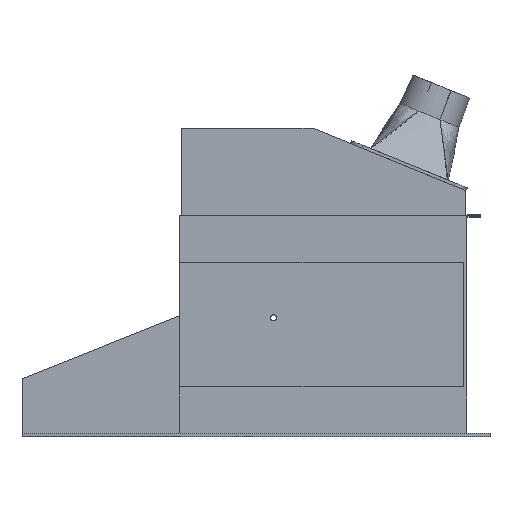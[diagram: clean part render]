
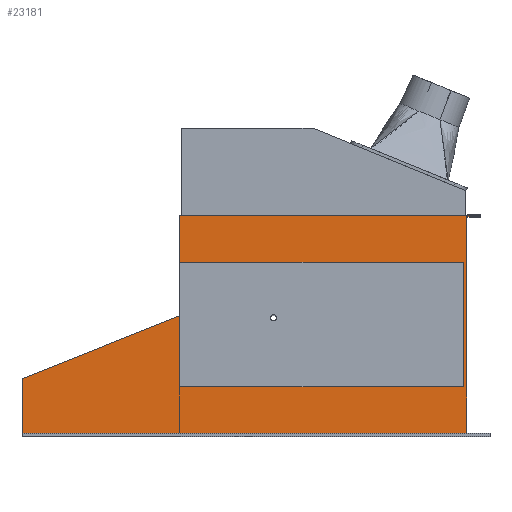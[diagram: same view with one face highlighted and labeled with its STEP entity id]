
A CAD part, top view. The second image highlights one B-rep face of the part: STEP entity #23181.
In plain terms, the highlighted planar face has unit normal (0, 0, 1).
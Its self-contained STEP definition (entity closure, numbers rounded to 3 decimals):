
#382 = CARTESIAN_POINT ( 'NONE',  ( -122.515, 102.105, 343. ) ) ;
#1627 = CARTESIAN_POINT ( 'NONE',  ( 331.485, 102.105, 343. ) ) ;
#2335 = CARTESIAN_POINT ( 'NONE',  ( 337.485, -171.895, 343. ) ) ;
#3736 = VERTEX_POINT ( 'NONE', #44437 ) ;
#4305 = DIRECTION ( 'NONE',  ( 1., 0., 0. ) ) ;
#4427 = ORIENTED_EDGE ( 'NONE', *, *, #18803, .F. ) ;
#4537 = CARTESIAN_POINT ( 'NONE',  ( -22.521, 56.303, 343. ) ) ;
#6106 = DIRECTION ( 'NONE',  ( 0., -1., 0. ) ) ;
#6372 = VERTEX_POINT ( 'NONE', #40766 ) ;
#6376 = CARTESIAN_POINT ( 'NONE',  ( 0., 0., 343. ) ) ;
#7441 = CARTESIAN_POINT ( 'NONE',  ( 337.485, 0., 343. ) ) ;
#8786 = VECTOR ( 'NONE', #26448, 1000. ) ;
#9170 = CARTESIAN_POINT ( 'NONE',  ( -122.515, -97.895, 343. ) ) ;
#10859 = ORIENTED_EDGE ( 'NONE', *, *, #14155, .T. ) ;
#11148 = VECTOR ( 'NONE', #22887, 1000. ) ;
#11500 = PLANE ( 'NONE',  #63169 ) ;
#11690 = VERTEX_POINT ( 'NONE', #34488 ) ;
#12017 = LINE ( 'NONE', #46051, #8786 ) ;
#12157 = LINE ( 'NONE', #26514, #40139 ) ;
#13199 = VERTEX_POINT ( 'NONE', #2335 ) ;
#14155 = EDGE_CURVE ( 'NONE', #19278, #39377, #18160, .T. ) ;
#15548 = CARTESIAN_POINT ( 'NONE',  ( 0., 174.896, 343. ) ) ;
#16624 = DIRECTION ( 'NONE',  ( 1., 0., 0. ) ) ;
#17010 = ORIENTED_EDGE ( 'NONE', *, *, #34912, .T. ) ;
#17461 = VECTOR ( 'NONE', #29562, 1000. ) ;
#17794 = LINE ( 'NONE', #29386, #32510 ) ;
#18074 = LINE ( 'NONE', #60280, #42784 ) ;
#18160 = LINE ( 'NONE', #4537, #44433 ) ;
#18438 = VERTEX_POINT ( 'NONE', #382 ) ;
#18803 = EDGE_CURVE ( 'NONE', #60096, #11690, #17794, .T. ) ;
#19278 = VERTEX_POINT ( 'NONE', #47820 ) ;
#20153 = CARTESIAN_POINT ( 'NONE',  ( 359.485, 176.605, 343. ) ) ;
#20234 = ORIENTED_EDGE ( 'NONE', *, *, #31617, .F. ) ;
#20633 = VECTOR ( 'NONE', #26775, 1000. ) ;
#21523 = DIRECTION ( 'NONE',  ( 1., 0., 0. ) ) ;
#22887 = DIRECTION ( 'NONE',  ( 0., -1., 0. ) ) ;
#23181 = ADVANCED_FACE ( 'NONE', ( #46920 ), #11500, .T. ) ;
#24655 = DIRECTION ( 'NONE',  ( -0.928, -0.371, 0. ) ) ;
#26448 = DIRECTION ( 'NONE',  ( 0., -1., 0. ) ) ;
#26514 = CARTESIAN_POINT ( 'NONE',  ( 0., 176.605, 343. ) ) ;
#26748 = DIRECTION ( 'NONE',  ( 0., -1., 0. ) ) ;
#26767 = CARTESIAN_POINT ( 'NONE',  ( -375.515, -84.895, 343. ) ) ;
#26775 = DIRECTION ( 'NONE',  ( -1., 0., 0. ) ) ;
#27106 = EDGE_CURVE ( 'NONE', #39377, #41803, #12017, .T. ) ;
#28311 = EDGE_CURVE ( 'NONE', #3736, #18438, #48360, .T. ) ;
#28757 = LINE ( 'NONE', #15548, #54911 ) ;
#28933 = LINE ( 'NONE', #34280, #30497 ) ;
#29185 = ORIENTED_EDGE ( 'NONE', *, *, #52595, .F. ) ;
#29386 = CARTESIAN_POINT ( 'NONE',  ( 331.485, -97.895, 343. ) ) ;
#29562 = DIRECTION ( 'NONE',  ( 0., -1., 0. ) ) ;
#30394 = EDGE_CURVE ( 'NONE', #41803, #13199, #33622, .T. ) ;
#30497 = VECTOR ( 'NONE', #62982, 1000. ) ;
#30633 = LINE ( 'NONE', #9170, #17461 ) ;
#30887 = DIRECTION ( 'NONE',  ( 1., 0., 0. ) ) ;
#30931 = DIRECTION ( 'NONE',  ( 0., 0., 1. ) ) ;
#31042 = VERTEX_POINT ( 'NONE', #20153 ) ;
#31456 = ORIENTED_EDGE ( 'NONE', *, *, #28311, .F. ) ;
#31617 = EDGE_CURVE ( 'NONE', #11690, #3736, #28933, .T. ) ;
#31962 = ORIENTED_EDGE ( 'NONE', *, *, #30394, .T. ) ;
#32093 = EDGE_CURVE ( 'NONE', #60223, #18438, #18074, .T. ) ;
#32510 = VECTOR ( 'NONE', #4305, 1000. ) ;
#33622 = LINE ( 'NONE', #40805, #58174 ) ;
#34280 = CARTESIAN_POINT ( 'NONE',  ( 331.485, -97.895, 343. ) ) ;
#34488 = CARTESIAN_POINT ( 'NONE',  ( 331.485, -97.895, 343. ) ) ;
#34912 = EDGE_CURVE ( 'NONE', #6372, #51705, #28757, .T. ) ;
#37152 = CARTESIAN_POINT ( 'NONE',  ( 359.485, 174.896, 343. ) ) ;
#38598 = ORIENTED_EDGE ( 'NONE', *, *, #27106, .T. ) ;
#38670 = EDGE_CURVE ( 'NONE', #60223, #31042, #12157, .T. ) ;
#39377 = VERTEX_POINT ( 'NONE', #26767 ) ;
#39793 = CARTESIAN_POINT ( 'NONE',  ( -122.515, 176.605, 343. ) ) ;
#40139 = VECTOR ( 'NONE', #21523, 1000. ) ;
#40766 = CARTESIAN_POINT ( 'NONE',  ( 337.485, 174.896, 343. ) ) ;
#40805 = CARTESIAN_POINT ( 'NONE',  ( 0., -171.895, 343. ) ) ;
#41803 = VERTEX_POINT ( 'NONE', #51883 ) ;
#42357 = ORIENTED_EDGE ( 'NONE', *, *, #32093, .T. ) ;
#42784 = VECTOR ( 'NONE', #6106, 1000. ) ;
#44120 = CARTESIAN_POINT ( 'NONE',  ( -122.515, -97.895, 343. ) ) ;
#44433 = VECTOR ( 'NONE', #24655, 1000. ) ;
#44437 = CARTESIAN_POINT ( 'NONE',  ( 331.485, 102.105, 343. ) ) ;
#46051 = CARTESIAN_POINT ( 'NONE',  ( -375.515, 0., 343. ) ) ;
#46920 = FACE_OUTER_BOUND ( 'NONE', #58641, .T. ) ;
#47075 = LINE ( 'NONE', #61075, #58498 ) ;
#47820 = CARTESIAN_POINT ( 'NONE',  ( -122.515, 16.305, 343. ) ) ;
#48075 = EDGE_CURVE ( 'NONE', #31042, #51705, #47075, .T. ) ;
#48360 = LINE ( 'NONE', #1627, #20633 ) ;
#49601 = ORIENTED_EDGE ( 'NONE', *, *, #38670, .F. ) ;
#50026 = ORIENTED_EDGE ( 'NONE', *, *, #48075, .F. ) ;
#50093 = DIRECTION ( 'NONE',  ( 1., 0., 0. ) ) ;
#51705 = VERTEX_POINT ( 'NONE', #37152 ) ;
#51852 = EDGE_CURVE ( 'NONE', #6372, #13199, #63651, .T. ) ;
#51883 = CARTESIAN_POINT ( 'NONE',  ( -375.515, -171.895, 343. ) ) ;
#52595 = EDGE_CURVE ( 'NONE', #19278, #60096, #30633, .T. ) ;
#54911 = VECTOR ( 'NONE', #50093, 1000. ) ;
#58174 = VECTOR ( 'NONE', #30887, 1000. ) ;
#58498 = VECTOR ( 'NONE', #26748, 1000. ) ;
#58641 = EDGE_LOOP ( 'NONE', ( #38598, #31962, #61548, #17010, #50026, #49601, #42357, #31456, #20234, #4427, #29185, #10859 ) ) ;
#60096 = VERTEX_POINT ( 'NONE', #44120 ) ;
#60223 = VERTEX_POINT ( 'NONE', #39793 ) ;
#60280 = CARTESIAN_POINT ( 'NONE',  ( -122.515, 0., 343. ) ) ;
#61075 = CARTESIAN_POINT ( 'NONE',  ( 359.485, 0., 343. ) ) ;
#61548 = ORIENTED_EDGE ( 'NONE', *, *, #51852, .F. ) ;
#62982 = DIRECTION ( 'NONE',  ( 0., 1., 0. ) ) ;
#63169 = AXIS2_PLACEMENT_3D ( 'NONE', #6376, #30931, #16624 ) ;
#63651 = LINE ( 'NONE', #7441, #11148 ) ;
